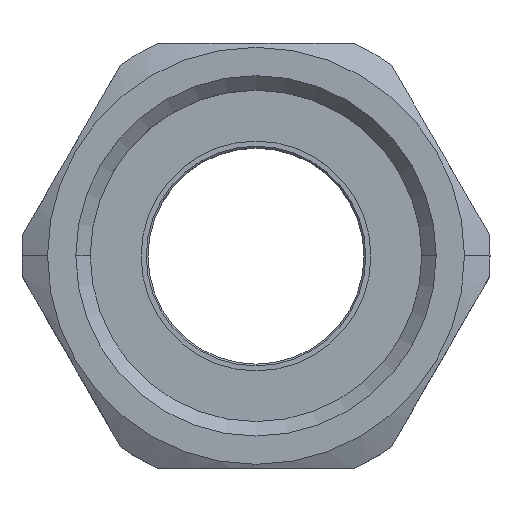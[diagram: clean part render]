
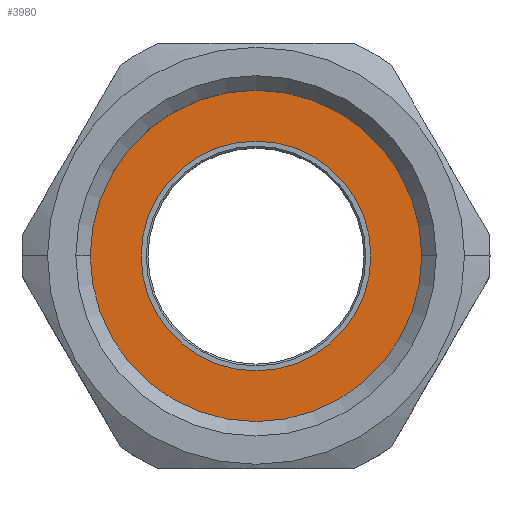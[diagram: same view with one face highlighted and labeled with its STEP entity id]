
A CAD part, top view. The second image highlights one B-rep face of the part: STEP entity #3980.
In plain terms, the highlighted planar face has unit normal (0, 0, 1).
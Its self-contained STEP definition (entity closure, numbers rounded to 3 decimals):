
#120=CARTESIAN_POINT('',(145.411,64.829,-154.221));
#130=VERTEX_POINT('',#120);
#290=CARTESIAN_POINT('',(172.411,64.829,-154.221));
#300=VERTEX_POINT('',#290);
#330=CARTESIAN_POINT('',(158.911,64.829,-154.221));
#340=DIRECTION('',(0.,0.,1.));
#350=DIRECTION('',(1.,0.,0.));
#360=AXIS2_PLACEMENT_3D('',#330,#340,#350);
#370=CIRCLE('',#360,13.5);
#380=EDGE_CURVE('',#130,#300,#370,.T.);
#590=CARTESIAN_POINT('',(178.387,64.829,-154.221));
#600=VERTEX_POINT('',#590);
#780=CARTESIAN_POINT('',(139.435,64.829,-154.221));
#790=VERTEX_POINT('',#780);
#820=CARTESIAN_POINT('',(158.911,64.829,-154.221));
#830=DIRECTION('',(0.,0.,1.));
#840=DIRECTION('',(1.,0.,0.));
#850=AXIS2_PLACEMENT_3D('',#820,#830,#840);
#860=CIRCLE('',#850,19.476);
#870=EDGE_CURVE('',#790,#600,#860,.T.);
#3830=CARTESIAN_POINT('',(125.211,14.729,-154.221));
#3840=DIRECTION('',(0.,0.,1.));
#3850=DIRECTION('',(1.,0.,0.));
#3860=AXIS2_PLACEMENT_3D('',#3830,#3840,#3850);
#3870=PLANE('',#3860);
#3880=EDGE_CURVE('',#600,#790,#860,.T.);
#3890=ORIENTED_EDGE('',*,*,#3880,.T.);
#3900=ORIENTED_EDGE('',*,*,#870,.T.);
#3910=EDGE_LOOP('',(#3900,#3890));
#3920=FACE_OUTER_BOUND('',#3910,.T.);
#3930=EDGE_CURVE('',#300,#130,#370,.T.);
#3940=ORIENTED_EDGE('',*,*,#3930,.F.);
#3950=ORIENTED_EDGE('',*,*,#380,.F.);
#3960=EDGE_LOOP('',(#3950,#3940));
#3970=FACE_BOUND('',#3960,.T.);
#3980=ADVANCED_FACE('',(#3920,#3970),#3870,.T.);
